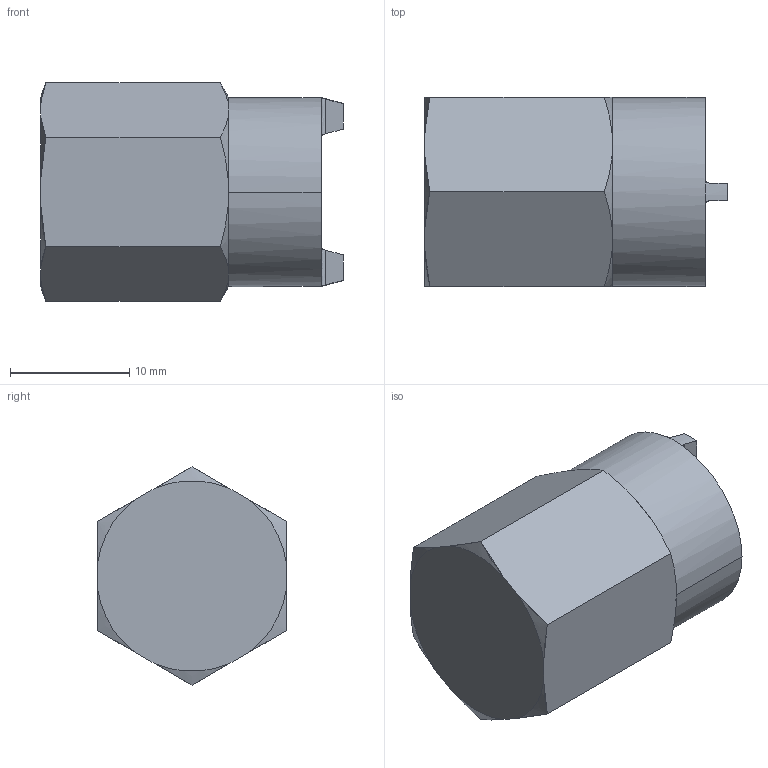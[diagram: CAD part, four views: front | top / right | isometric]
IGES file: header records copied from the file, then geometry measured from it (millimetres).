
Start section:  PTC IGES file: vw-64.igs
Global section: file name: vw-64.igs; native system: Pro/ENGINEER by Parametric Technology Corporation; preprocessor: 2002350; author: chant; organization: Unknown; date: 070702.164346; units: inch
Bounding box: 25.4 x 15.88 x 18.33 mm (x, y, z)
Surface area: 2036.6 mm2 (no closed solid volume)
Topology: 0 solids, 0 shells, 47 faces, 355 edges, 469 vertices
Faces by surface type: revolution 26, bspline 21
